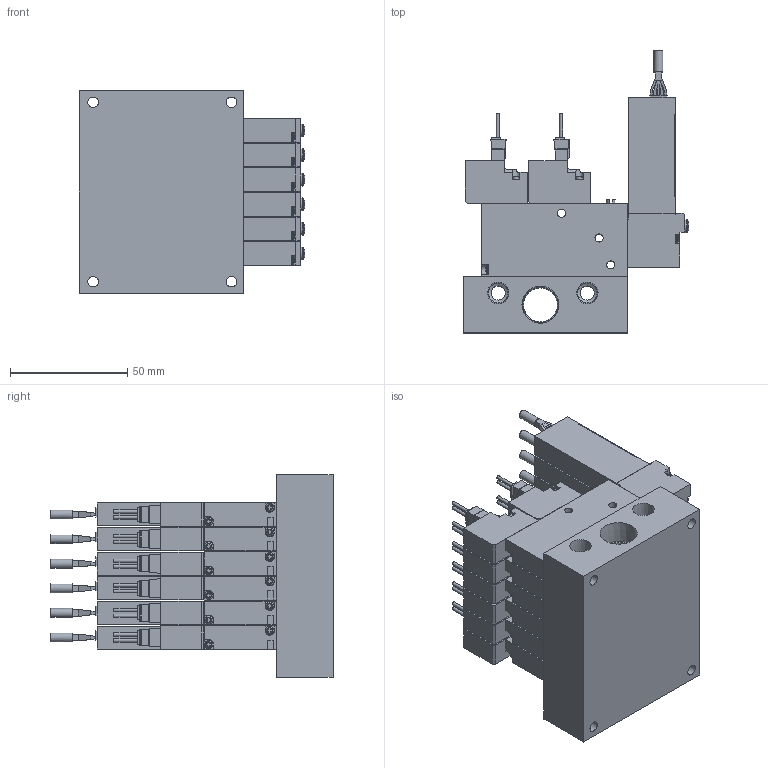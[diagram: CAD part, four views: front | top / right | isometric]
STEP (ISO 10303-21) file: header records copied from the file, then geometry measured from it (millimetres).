
FILE_DESCRIPTION(('STEP AP203'),'1');
FILE_NAME('BMPV42MV9.V9P5A(B)606.stp','2025-04-30T05:44:19',(' '),(' '),'Spatial InterOp 3D',' ',' ');
FILE_SCHEMA(('CONFIG_CONTROL_DESIGN'));
Length unit declared in the file: millimetre
Products named in the file (9): BMPV42MV9.V9P5A(B)606; UNIT-MPV42; VACUUM VALVE FUNCTION MPV42-A; VACUUM SENSOR MPV42-V9; MC4-M6
Assembly tree (25 placements, depth 2):
  BMPV42MV9.V9P5A(B)606
    UNIT-MPV42  x5
    VACUUM VALVE FUNCTION MPV42-A  x10
    VACUUM SENSOR MPV42-V9  x5
    MC4-M6
    VACUUM VALVE FUNCTION MPV42-A
    VACUUM VALVE FUNCTION MPV42-A
    UNIT-MPV42
    VACUUM SENSOR MPV42-V9
Bounding box: 96.34 x 120.3 x 86.5 mm (x, y, z)
Volume: 382571.5 mm3; surface area: 125212.9 mm2
Topology: 25 solids, 25 shells, 2313 faces, 6262 edges, 4143 vertices
Faces by surface type: plane 1806, cylinder 407, cone 40, sphere 30, torus 30
Full cylindrical faces by diameter (mm): 1.4 x24, 1.8 x6, 2.2 x12, 3 x24, 3.5 x66, 3.8 x6, 4.134 x12, 4.5 x4, 5 x6, 5.5 x6, 6 x2, 8.2 x4, 14.5 x1
Entity records: 21850 total; most frequent: CARTESIAN_POINT 4226, DIRECTION 3472, ORIENTED_EDGE 3444, EDGE_CURVE 1722, LINE 1324, VECTOR 1324, VERTEX_POINT 1192, AXIS2_PLACEMENT_3D 1074
